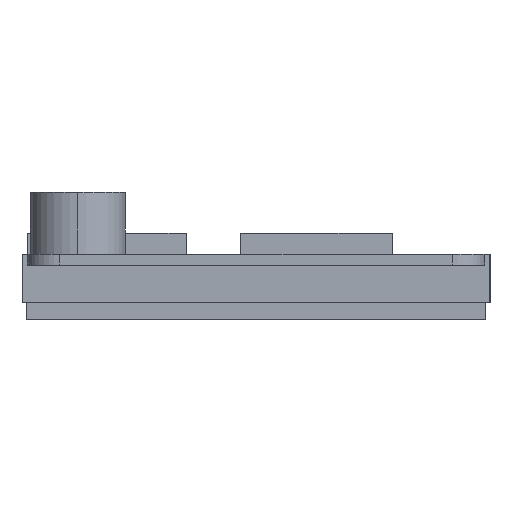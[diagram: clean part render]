
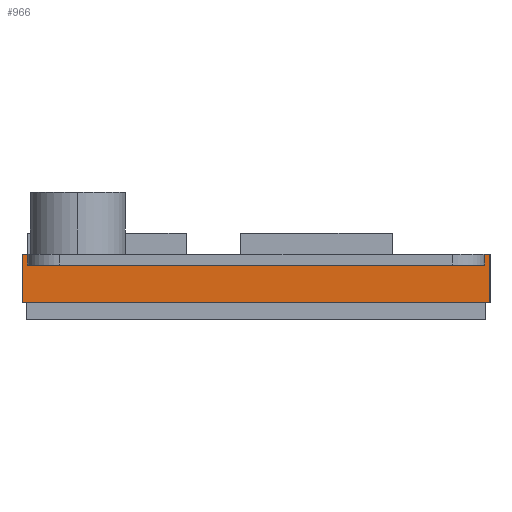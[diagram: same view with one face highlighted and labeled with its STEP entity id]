
A CAD part, left-side view. The second image highlights one B-rep face of the part: STEP entity #966.
In plain terms, the highlighted planar face has unit normal (-1, 0, 0).
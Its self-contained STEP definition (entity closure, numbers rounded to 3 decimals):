
#57=DIRECTION('',(0.,-1.,0.));
#58=VECTOR('',#57,0.5);
#59=CARTESIAN_POINT('',(-39.871,-21.4,0.));
#60=LINE('',#59,#58);
#83=DIRECTION('',(0.,-1.,0.));
#84=VECTOR('',#83,0.5);
#85=CARTESIAN_POINT('',(-39.871,21.9,0.));
#86=LINE('',#85,#84);
#211=DIRECTION('',(0.,1.,0.));
#212=VECTOR('',#211,42.8);
#213=CARTESIAN_POINT('',(-39.871,-21.4,-1.));
#214=LINE('',#213,#212);
#287=DIRECTION('',(0.,0.,-1.));
#288=VECTOR('',#287,4.5);
#289=CARTESIAN_POINT('',(-39.871,21.9,0.));
#290=LINE('',#289,#288);
#291=DIRECTION('',(0.,0.,1.));
#292=VECTOR('',#291,1.);
#293=CARTESIAN_POINT('',(-39.871,-21.4,-1.));
#294=LINE('',#293,#292);
#315=DIRECTION('',(0.,0.,1.));
#316=VECTOR('',#315,1.);
#317=CARTESIAN_POINT('',(-39.871,21.4,-1.));
#318=LINE('',#317,#316);
#339=DIRECTION('',(0.,-1.,0.));
#340=VECTOR('',#339,43.8);
#341=CARTESIAN_POINT('',(-39.871,21.9,-4.5));
#342=LINE('',#341,#340);
#367=DIRECTION('',(0.,0.,-1.));
#368=VECTOR('',#367,4.5);
#369=CARTESIAN_POINT('',(-39.871,-21.9,0.));
#370=LINE('',#369,#368);
#574=CARTESIAN_POINT('',(-39.871,21.9,0.));
#576=VERTEX_POINT('',#574);
#577=CARTESIAN_POINT('',(-39.871,-21.9,0.));
#579=VERTEX_POINT('',#577);
#582=CARTESIAN_POINT('',(-39.871,21.9,-4.5));
#584=VERTEX_POINT('',#582);
#585=CARTESIAN_POINT('',(-39.871,-21.9,-4.5));
#586=VERTEX_POINT('',#585);
#589=CARTESIAN_POINT('',(-39.871,-21.4,-1.));
#590=CARTESIAN_POINT('',(-39.871,21.4,-1.));
#591=VERTEX_POINT('',#589);
#592=VERTEX_POINT('',#590);
#597=CARTESIAN_POINT('',(-39.871,21.4,0.));
#598=VERTEX_POINT('',#597);
#601=CARTESIAN_POINT('',(-39.871,-21.4,0.));
#602=VERTEX_POINT('',#601);
#946=CARTESIAN_POINT('',(-39.871,21.9,0.));
#947=DIRECTION('',(-1.,0.,0.));
#948=DIRECTION('',(0.,-1.,0.));
#949=AXIS2_PLACEMENT_3D('',#946,#947,#948);
#950=PLANE('',#949);
#951=ORIENTED_EDGE('',*,*,#811,.F.);
#953=ORIENTED_EDGE('',*,*,#952,.T.);
#954=ORIENTED_EDGE('',*,*,#696,.T.);
#956=ORIENTED_EDGE('',*,*,#955,.T.);
#958=ORIENTED_EDGE('',*,*,#957,.F.);
#960=ORIENTED_EDGE('',*,*,#959,.F.);
#961=ORIENTED_EDGE('',*,*,#708,.T.);
#963=ORIENTED_EDGE('',*,*,#962,.F.);
#964=EDGE_LOOP('',(#951,#953,#954,#956,#958,#960,#961,#963));
#965=FACE_OUTER_BOUND('',#964,.F.);
#696=EDGE_CURVE('',#602,#579,#60,.T.);
#708=EDGE_CURVE('',#576,#598,#86,.T.);
#811=EDGE_CURVE('',#591,#592,#214,.T.);
#952=EDGE_CURVE('',#591,#602,#294,.T.);
#955=EDGE_CURVE('',#579,#586,#370,.T.);
#957=EDGE_CURVE('',#584,#586,#342,.T.);
#959=EDGE_CURVE('',#576,#584,#290,.T.);
#962=EDGE_CURVE('',#592,#598,#318,.T.);
#966=ADVANCED_FACE('',(#965),#950,.T.);
